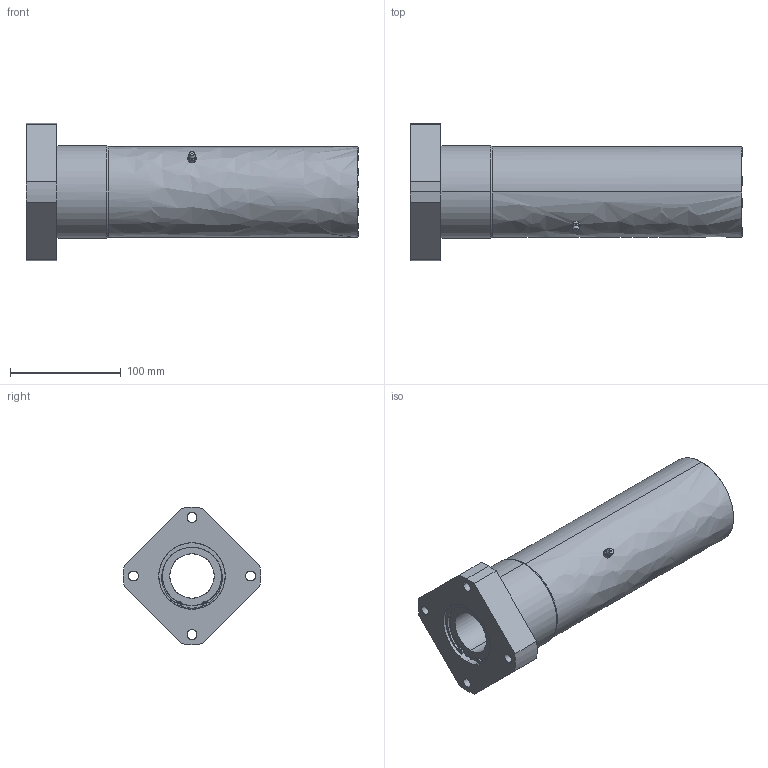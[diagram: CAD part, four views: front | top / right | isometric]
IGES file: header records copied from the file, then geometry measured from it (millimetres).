
Global section: file name: No Iges File Name specified; native system: AutoDesk Inventor R10; preprocessor: AutoDesk Inventor Iges Exporter R10; author: No Author specified; organization: No Organization specified; date: 20101214.141017; units: millimetre
Bounding box: 300 x 123.84 x 124 mm (x, y, z)
Surface area: 151705.3 mm2 (no closed solid volume)
Topology: 0 solids, 0 shells, 159 faces, 1093 edges, 1091 vertices
Faces by surface type: bspline 159
